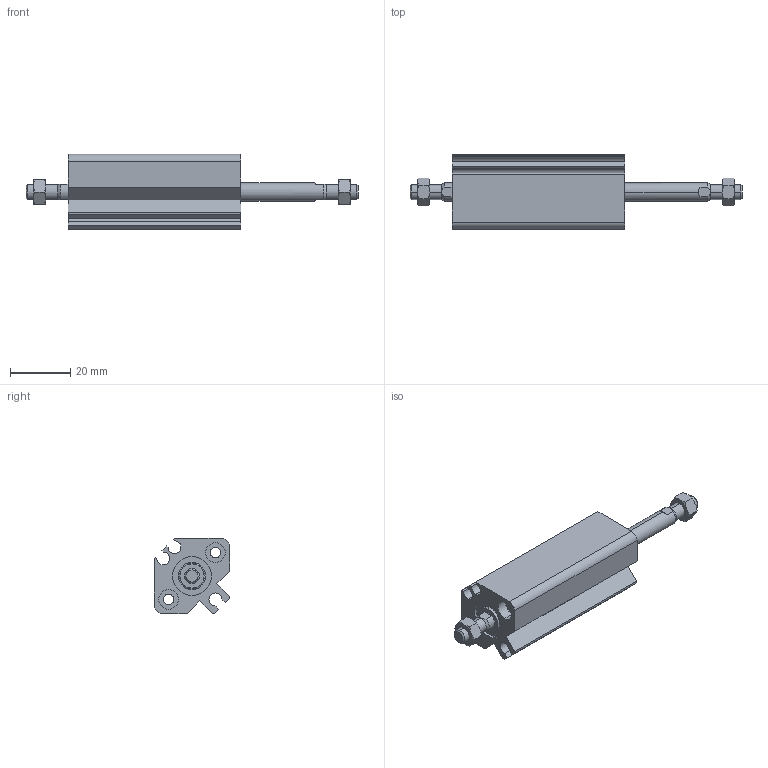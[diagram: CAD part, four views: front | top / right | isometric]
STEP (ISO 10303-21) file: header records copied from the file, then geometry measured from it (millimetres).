
FILE_DESCRIPTION (( 'STEP AP203' ), '1' );
FILE_NAME ('CCMB12-25M-P.STEP', '2020-08-10T10:56:43', ( '' ), ( '' ), 'SwSTEP 2.0', 'SolidWorks 2019', '' );
FILE_SCHEMA (( 'CONFIG_CONTROL_DESIGN' ));
Length unit declared in the file: millimetre
Products named in the file (1): CCMB12-25M-P
Bounding box: 110.4 x 25 x 25 mm (x, y, z)
Volume: 26655.6 mm3; surface area: 14554.6 mm2
Topology: 4 solids, 4 shells, 161 faces, 369 edges, 230 vertices
Faces by surface type: plane 63, cylinder 54, cone 44
Entity records: 4994 total; most frequent: CARTESIAN_POINT 1273, DIRECTION 777, ORIENTED_EDGE 738, EDGE_CURVE 369, AXIS2_PLACEMENT_3D 310, VERTEX_POINT 230, EDGE_LOOP 185, FACE_OUTER_BOUND 161
